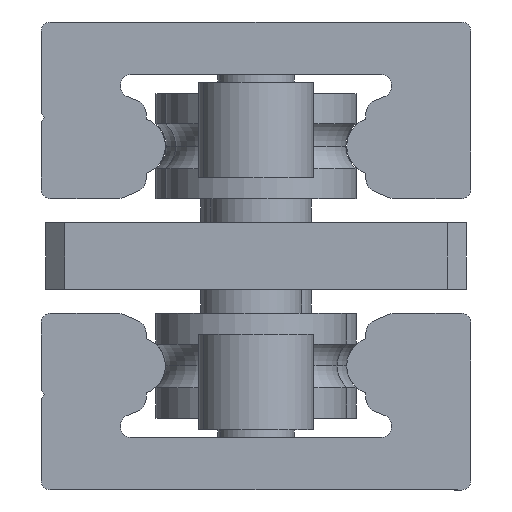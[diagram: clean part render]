
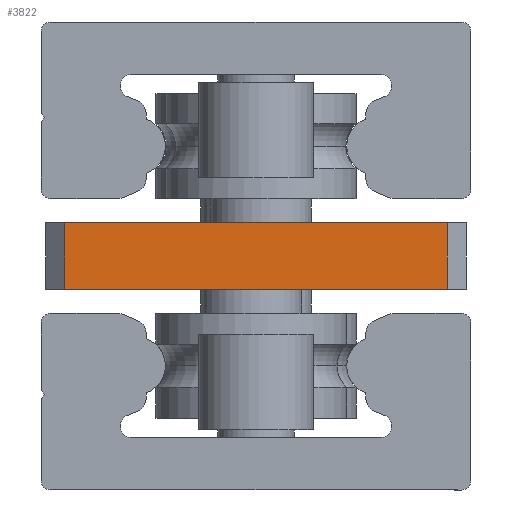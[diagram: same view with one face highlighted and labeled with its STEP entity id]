
A CAD part, left-side view. The second image highlights one B-rep face of the part: STEP entity #3822.
In plain terms, the highlighted planar face has unit normal (-1, 0, 0).
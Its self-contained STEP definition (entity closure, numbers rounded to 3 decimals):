
#237 = DIRECTION ( 'NONE',  ( 1., 0., 0. ) ) ;
#301 = FACE_OUTER_BOUND ( 'NONE', #1342, .T. ) ;
#1342 = EDGE_LOOP ( 'NONE', ( #10732, #2480, #5740, #5757 ) ) ;
#1500 = EDGE_CURVE ( 'NONE', #5307, #10639, #2648, .T. ) ;
#1520 = AXIS2_PLACEMENT_3D ( 'NONE', #8695, #237, #12807 ) ;
#2371 = DIRECTION ( 'NONE',  ( 0., -1., 0. ) ) ;
#2480 = ORIENTED_EDGE ( 'NONE', *, *, #9949, .F. ) ;
#2648 = LINE ( 'NONE', #5545, #9488 ) ;
#2702 = DIRECTION ( 'NONE',  ( 0., 1., 0. ) ) ;
#3765 = EDGE_CURVE ( 'NONE', #8850, #5307, #10713, .T. ) ;
#3822 = ADVANCED_FACE ( 'NONE', ( #301 ), #7671, .F. ) ;
#3983 = CARTESIAN_POINT ( 'NONE',  ( 0., -22., 8. ) ) ;
#4356 = DIRECTION ( 'NONE',  ( 0., 0., -1. ) ) ;
#5307 = VERTEX_POINT ( 'NONE', #13147 ) ;
#5369 = DIRECTION ( 'NONE',  ( 0., 0., 1. ) ) ;
#5545 = CARTESIAN_POINT ( 'NONE',  ( 0., 22., 15. ) ) ;
#5740 = ORIENTED_EDGE ( 'NONE', *, *, #6162, .F. ) ;
#5749 = VECTOR ( 'NONE', #4356, 1000. ) ;
#5757 = ORIENTED_EDGE ( 'NONE', *, *, #1500, .F. ) ;
#5980 = VERTEX_POINT ( 'NONE', #8666 ) ;
#6162 = EDGE_CURVE ( 'NONE', #10639, #5980, #6394, .T. ) ;
#6252 = VECTOR ( 'NONE', #2702, 1000. ) ;
#6394 = LINE ( 'NONE', #12676, #5749 ) ;
#7671 = PLANE ( 'NONE',  #1520 ) ;
#8666 = CARTESIAN_POINT ( 'NONE',  ( 0., -20., 8. ) ) ;
#8695 = CARTESIAN_POINT ( 'NONE',  ( 0., 0., 11.5 ) ) ;
#8850 = VERTEX_POINT ( 'NONE', #12677 ) ;
#9488 = VECTOR ( 'NONE', #2371, 1000. ) ;
#9576 = CARTESIAN_POINT ( 'NONE',  ( 0., 20., 13.25 ) ) ;
#9693 = CARTESIAN_POINT ( 'NONE',  ( 0., -20., 15. ) ) ;
#9949 = EDGE_CURVE ( 'NONE', #5980, #8850, #13260, .T. ) ;
#10639 = VERTEX_POINT ( 'NONE', #9693 ) ;
#10713 = LINE ( 'NONE', #9576, #12326 ) ;
#10732 = ORIENTED_EDGE ( 'NONE', *, *, #3765, .F. ) ;
#12326 = VECTOR ( 'NONE', #5369, 1000. ) ;
#12676 = CARTESIAN_POINT ( 'NONE',  ( 0., -20., 9.75 ) ) ;
#12677 = CARTESIAN_POINT ( 'NONE',  ( 0., 20., 8. ) ) ;
#12807 = DIRECTION ( 'NONE',  ( 0., 0., -1. ) ) ;
#13147 = CARTESIAN_POINT ( 'NONE',  ( 0., 20., 15. ) ) ;
#13260 = LINE ( 'NONE', #3983, #6252 ) ;
